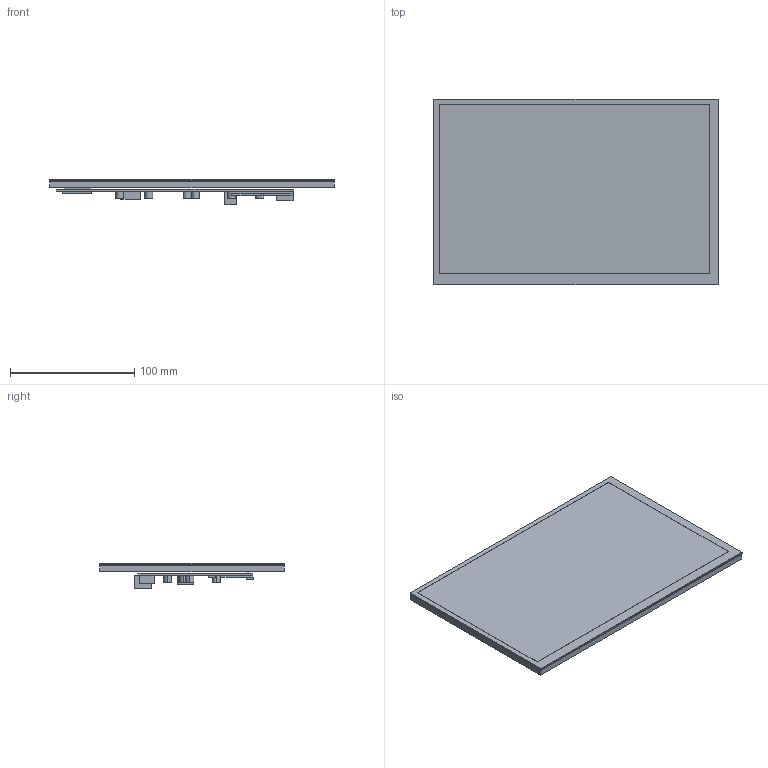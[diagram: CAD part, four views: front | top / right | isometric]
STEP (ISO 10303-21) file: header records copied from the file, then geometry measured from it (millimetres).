
FILE_DESCRIPTION((''),'2;1');
FILE_NAME('HDW101-004L','2021-09-02T',('Administrator'),(''),'PRO/ENGINEER BY PARAMETRIC TECHNOLOGY CORPORATION, 2011310','PRO/ENGINEER BY PARAMETRIC TECHNOLOGY CORPORATION, 2011310','');
FILE_SCHEMA(('CONFIG_CONTROL_DESIGN','SHAPE_APPEARANCE_LAYERS_GROUPS'));
Length unit declared in the file: millimetre
Products named in the file (1): HDW101-004L
Bounding box: 229.7 x 149.3 x 20.77 mm (x, y, z)
Volume: 249200.9 mm3; surface area: 169296 mm2
Topology: 2 solids, 2 shells, 123 faces, 300 edges, 198 vertices
Faces by surface type: plane 105, cylinder 18
Entity records: 4120 total; most frequent: CARTESIAN_POINT 621, ORIENTED_EDGE 600, DIRECTION 582, EDGE_CURVE 300, VECTOR 264, LINE 264, VERTEX_POINT 198, AXIS2_PLACEMENT_3D 159
